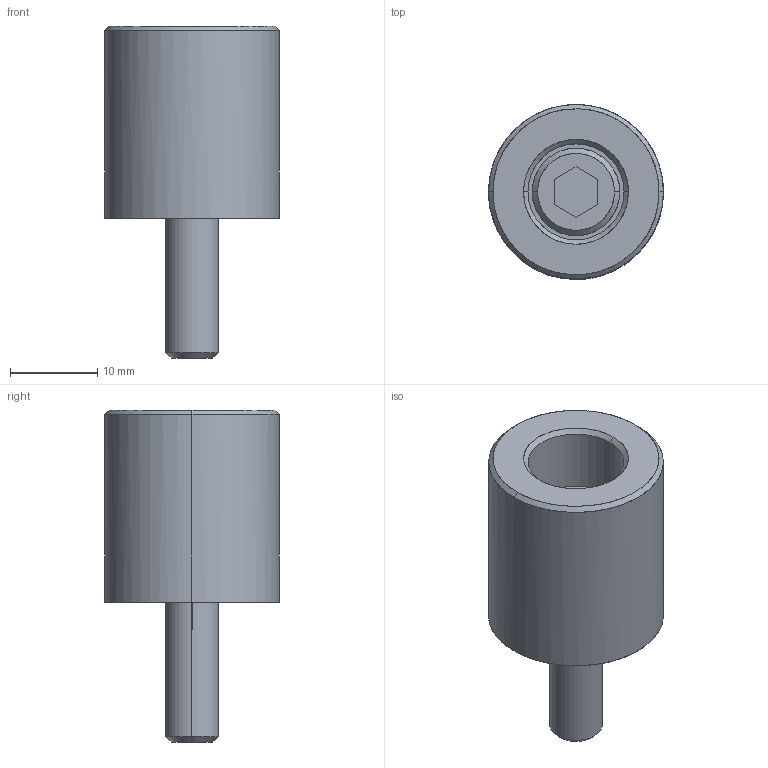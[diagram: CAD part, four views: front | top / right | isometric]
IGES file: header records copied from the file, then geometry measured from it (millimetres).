
Global section: file name: E:\UnigraphicsGraphicData\MISUMI_PRESS-PARTS\IGES\3d_sbv20-22-y-25_00590_r00.igs; native system: NX V5.0; preprocessor: UGS NX IGES V5.0; author: MISUMI; date: 20110105.162508; units: millimetre
Bounding box: 20 x 20 x 38 mm (x, y, z)
Surface area: 3404.5 mm2 (no closed solid volume)
Topology: 0 solids, 0 shells, 31 faces, 188 edges, 188 vertices
Faces by surface type: bspline 31
